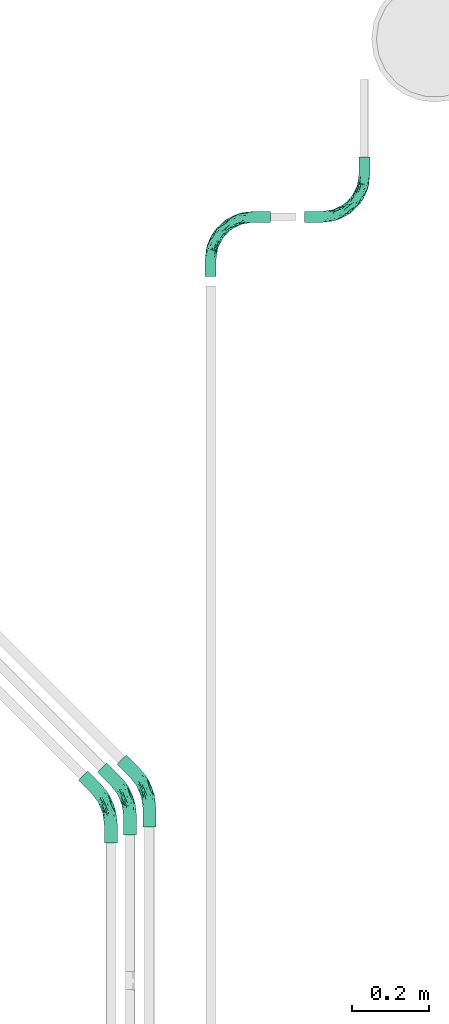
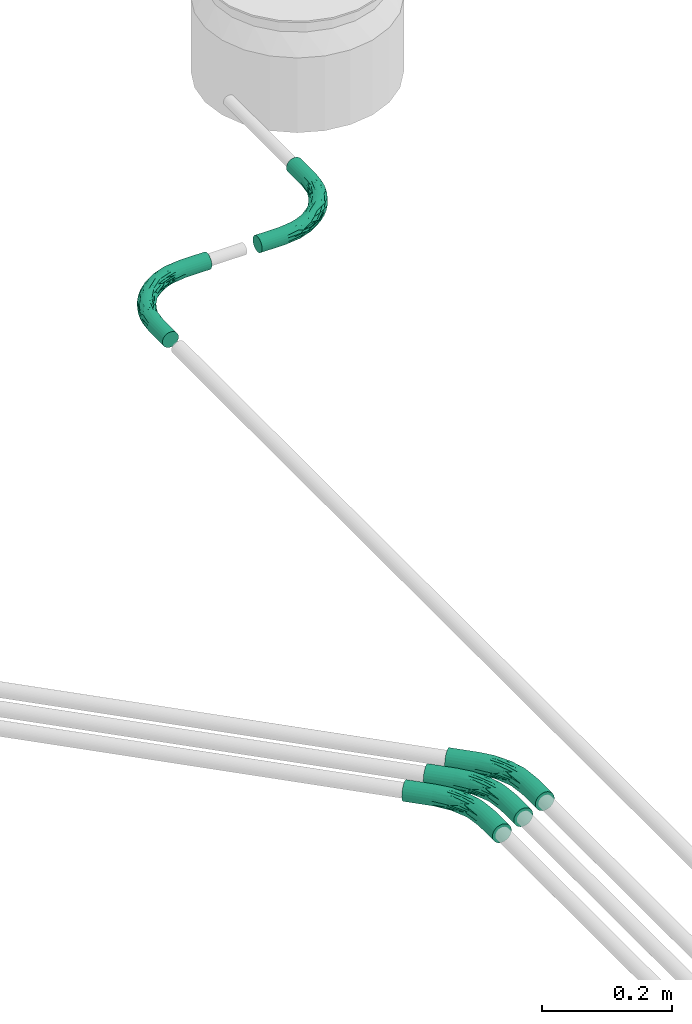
# One storey, part 14 of 51: 5 flow fittings.
"""IFC2X3 building model written with IfcOpenShell, lengths in millimetres."""

from ifc_helpers import new_model, entity, si_unit, converted_unit, derived_unit, direction, frame, origin_with_axes, place, context, subcontext, project, spatial, open_shell, surface_model, source, transform, mapped, type_object, element, save


model = new_model("IFC2X3")

# Units and contexts
model_context = context("Model", 3, precision=0.01, world=frame((0.0, 4.29681676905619e-09, 0.0)), true_north=direction((4.01073788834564e-13, 1.0)))
plan_context = context("Plan", 3, precision=0.01, world=frame((0.0, 4.29681676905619e-09, 0.0)), true_north=direction((4.01073788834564e-13, 1.0)))
body_context = subcontext(model_context, "Body", "Model", "MODEL_VIEW")
ifc_project = project(units=[converted_unit("PLANEANGLEUNIT", "DEGREE", entity("IfcPositiveLengthMeasure", 0.0174532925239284), si_unit("PLANEANGLEUNIT", "RADIAN"), dimensions=[0, 0, 0, 0, 0, 0, 0]), si_unit("AREAUNIT", "SQUARE_METRE"), si_unit("LENGTHUNIT", "METRE", prefix="MILLI"), si_unit("MASSUNIT", "GRAM", prefix="KILO"), si_unit("POWERUNIT", "WATT"), si_unit("PRESSUREUNIT", "PASCAL"), si_unit("FORCEUNIT", "NEWTON", prefix="KILO"), si_unit("ELECTRICVOLTAGEUNIT", "VOLT"), si_unit("ELECTRICCURRENTUNIT", "AMPERE"), si_unit("THERMODYNAMICTEMPERATUREUNIT", "DEGREE_CELSIUS"), si_unit("TIMEUNIT", "SECOND"), si_unit("VOLUMEUNIT", "CUBIC_METRE"), derived_unit("LINEARVELOCITYUNIT", [(si_unit("LENGTHUNIT", "METRE"), 1), (si_unit("TIMEUNIT", "SECOND"), -1)]), derived_unit("VOLUMETRICFLOWRATEUNIT", [(si_unit("VOLUMEUNIT", "CUBIC_METRE"), 1), (si_unit("TIMEUNIT", "SECOND"), -1)]), derived_unit("THERMALTRANSMITTANCEUNIT", [(si_unit("POWERUNIT", "WATT"), 1), (si_unit("THERMODYNAMICTEMPERATUREUNIT", "KELVIN"), -1), (si_unit("AREAUNIT", "SQUARE_METRE"), -1)]), derived_unit("SOUNDPRESSUREUNIT", [(si_unit("PRESSUREUNIT", "PASCAL"), 1)])], contexts=[model_context, plan_context])

# Site, building, storey
site_placement = place(None, frame((0.0, -4.29681676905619e-09, 0.0), z_axis=(0.0, 0.0, 1.0), x_axis=(1.0, 0.0, 0.0)))
site = spatial("IfcSite", under=ifc_project, at=site_placement, Name="ENGM", CompositionType="ELEMENT")
building_placement = place(site_placement, frame((0.0, 4.29681676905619e-09, 0.0), z_axis=(0.0, 0.0, 1.0), x_axis=(1.0, 0.0, 0.0)))
building = spatial("IfcBuilding", under=site, at=building_placement, Name="TI", CompositionType="ELEMENT")
storey_placement = place(building_placement, frame((0.0, 0.0, 210900.0), z_axis=(0.0, 0.0, 1.0), x_axis=(1.0, 0.0, 0.0)))
storey = spatial("IfcBuildingStorey", under=building, at=storey_placement, Name="Nivå F", CompositionType="ELEMENT", Elevation=210900.0)

# Flow fittings
cable_carrier_fitting_type = type_object("IfcCableCarrierFittingType", Name="Trekkerør, glatt bend", PredefinedType="BEND")
shared_shape_1 = source(origin_with_axes(), body_context, "Body", "SurfaceModel", [
    surface_model("IfcShellBasedSurfaceModel", [(-154.55625, 0.0, -14.27109), (-154.55625, -13.78482, -3.69363), (-154.55625, 3.69363, -13.78482), (-154.55625, 7.13555, -12.35913), (-154.55625, 12.35913, -7.13555), (-154.55625, -14.27109, 0.0), (-154.55625, 10.09119, -10.09119), (-154.55625, -13.78482, 3.69363), (-154.55625, -10.09119, -10.09119), (-154.55625, -12.35913, -7.13555), (-154.55625, -7.13555, -12.35913), (-154.55625, -3.69363, -13.78482), (-154.55625, 13.78482, -3.69363), (-154.55625, 14.27109, 0.0), (-154.55625, -12.35913, 7.13555), (-154.55625, 13.78482, 3.69363), (-154.55625, 12.35913, 7.13555), (-154.55625, 7.13555, 12.35913), (-154.55625, -3.69363, 13.78482), (-154.55625, 10.09119, 10.09119), (-154.55625, 3.69363, 13.78482), (-154.55625, 0.0, 14.27109), (-154.55625, -10.09119, 10.09119), (-154.55625, -7.13555, 12.35913), (-109.53828, -14.27109, 0.0), (-109.53828, -13.78482, 3.69363), (-109.53828, -12.35913, 7.13555), (-109.53828, -10.09119, 10.09119), (-109.53828, -7.13555, 12.35913), (-109.53828, -3.69363, 13.78482), (-109.53828, 0.0, 14.27109), (-109.53828, 3.69363, 13.78482), (-109.53828, 7.13555, 12.35913), (-109.53828, 10.09119, 10.09119), (-109.53828, 12.35913, 7.13555), (-109.53828, 13.78482, 3.69363), (-109.53828, 14.27109, 0.0), (-109.53828, 13.78482, -3.69363), (-109.53828, 12.35913, -7.13555), (-109.53828, 10.09119, -10.09119), (-109.53828, 7.13555, -12.35913), (-109.53828, 3.69363, -13.78482), (-109.53828, 0.0, -14.27109), (-109.53828, -3.69363, -13.78482), (-109.53828, -7.13555, -12.35913), (-109.53828, -10.09119, -10.09119), (-109.53828, -12.35913, -7.13555), (-109.53828, -13.78482, -3.69363), (-3.69363, 109.53828, 13.78482), (-7.1534, 89.99414, 13.24855), (-5.52615, 80.75509, 14.17919), (-60.76988, -1.31586, 8.35584), (-86.74719, -9.26979, 8.53701), (-78.43143, -9.27777, 5.21969), (-54.57322, 16.38341, 14.20456), (-37.47603, 23.87443, 14.06701), (-28.15284, 38.55475, 14.18707), (-61.24691, 4.75102, 13.02092), (-78.33811, -4.70928, 11.16152), (-49.9274, 6.84288, 10.90618), (-95.50078, -12.04777, 0.0), (-71.27908, -8.21143, 0.0), (-84.10609, -11.40642, 2.49425), (-84.40829, 4.61635, 14.17552), (-21.30634, 35.06714, 12.98487), (-25.5172, 25.5172, 10.83717), (-6.52074, 51.84045, 11.43645), (-14.9351, 49.72791, 14.07022), (-36.13298, 13.4524, 8.61377), (-48.07555, 3.07814, 4.93607), (-22.8399, 22.8399, 5.72655), (-61.42092, -4.26023, 2.69213), (-43.25505, 5.21821, 2.45459), (-76.37759, 10.60152, 13.29307), (-84.26876, 11.72213, 11.45557), (-16.10152, 32.64981, 8.49548), (-91.7629, 12.84689, 8.81067), (-78.89232, 2.16712, 14.11264), (-86.94002, -3.39666, 13.1113), (-53.54164, 32.46551, 0.0), (-80.0991, 18.9338, 0.0), (-65.27277, 24.4813, 4.15685), (-70.11513, 19.34285, 8.96525), (-58.85951, 26.77111, 6.9074), (-87.03749, 15.77002, 5.64275), (-7.13555, 109.53828, 12.35913), (-10.09119, 109.53828, 10.09119), (-12.24312, 82.27842, 11.46622), (-88.43996, 16.36335, 2.74565), (-0.11486, 73.25678, 13.06442), (7.13555, 109.53828, 12.35913), (3.69363, 109.53828, 13.78482), (-41.93843, 41.93843, 3.06688), (-41.06778, 41.06778, 6.49711), (-12.84689, 91.7629, 8.81067), (-12.35913, 109.53828, 7.13555), (5.39094, 64.47541, 3.19158), (-3.07814, 48.07555, 4.93607), (-3.51803, 45.96754, 2.3263), (-36.76496, 9.37439, 0.0), (-23.06967, 23.06967, 0.0), (0.0, 109.53828, 14.27109), (-0.81133, 84.32322, 14.11955), (-41.69927, 29.72188, 13.44421), (12.35913, 109.53828, 7.13555), (9.27777, 78.43143, 5.21969), (13.78482, 109.53828, 3.69363), (-57.22502, 11.42573, 14.17543), (9.26979, 86.74719, 8.53701), (1.31586, 60.76988, 8.35584), (5.72038, 82.4285, 11.18319), (11.40642, 84.10609, 2.49425), (-59.15779, 20.7896, 12.14962), (-18.9338, 80.0991, 0.0), (-32.46551, 53.54164, 0.0), (-24.4813, 65.27277, 4.15685), (-16.36335, 88.43996, 2.74565), (-14.27109, 109.53828, 0.0), (-8.62571, 53.03293, 12.89354), (-13.78482, 109.53828, 3.69363), (-15.77002, 87.03749, 5.64275), (-37.83174, 37.83174, 11.72896), (-22.74629, 58.47709, 11.20332), (-35.02355, 44.66648, 9.39592), (-51.28798, 28.82677, 10.17947), (-14.20714, 66.91103, 13.32458), (10.09119, 109.53828, 10.09119), (12.04777, 95.50078, 0.0), (-26.77111, 58.85951, 6.9074), (-19.34285, 70.11513, 8.96525), (-22.27171, 49.8428, 13.75381), (-14.02071, 58.08047, 14.23303), (-38.19919, 17.37508, 12.43121), (-25.3167, 50.04426, 12.74411), (-58.12909, 18.65185, 13.32115), (-15.5265, 29.44086, 2.9254), (-54.02202, 0.58148, 0.0), (-9.37439, 36.76496, 0.0), (-0.58148, 54.02202, 0.0), (8.21143, 71.27908, 0.0), (14.27109, 109.53828, 0.0), (-82.27842, 12.24312, -11.46622), (-16.38341, 54.57322, -14.20456), (-23.87443, 37.47603, -14.06701), (-38.55475, 28.15284, -14.18707), (-91.7629, 12.84689, -8.81067), (-24.4813, 65.27277, -4.15685), (-88.43996, 16.36335, -2.74565), (-65.27277, 24.4813, -4.15685), (-87.03749, 15.77002, -5.64275), (12.35913, 109.53828, -7.13555), (13.78482, 109.53828, -3.69363), (9.27777, 78.43143, -5.21969), (-84.10609, -11.40642, -2.49425), (-61.42092, -4.26023, -2.69213), (-41.93843, 41.93843, -3.06688), (-4.61635, 84.40829, -14.17552), (-3.69363, 109.53828, -13.78482), (0.0, 109.53828, -14.27109), (-48.07555, 3.07814, -4.93607), (-78.43143, -9.27777, -5.21969), (-60.76988, -1.31586, -8.35584), (-82.4285, -5.72038, -11.18319), (-51.84045, 6.52074, -11.43645), (-86.74719, -9.26979, -8.53701), (3.39666, 86.94002, -13.1113), (4.70928, 78.33811, -11.16152), (-4.75102, 61.24691, -13.02092), (-3.51803, 45.96754, -2.3263), (-15.5265, 29.44086, -2.9254), (-73.25678, 0.11486, -13.06442), (11.40642, 84.10609, -2.49425), (-84.32322, 0.81133, -14.11955), (-11.42573, 57.22502, -14.17543), (-3.07814, 48.07555, -4.93607), (1.31586, 60.76988, -8.35584), (-89.99414, 7.1534, -13.24855), (-10.60152, 76.37759, -13.29307), (-6.84288, 49.9274, -10.90618), (-2.16712, 78.89232, -14.11264), (-13.4524, 36.13298, -8.61377), (-25.5172, 25.5172, -10.83717), (-13.78482, 109.53828, -3.69363), (-16.36335, 88.43996, -2.74565), (3.69363, 109.53828, -13.78482), (-26.77111, 58.85951, -6.9074), (-15.77002, 87.03749, -5.64275), (-19.34285, 70.11513, -8.96525), (-12.35913, 109.53828, -7.13555), (-80.75509, 5.52615, -14.17919), (10.09119, 109.53828, -10.09119), (9.26979, 86.74719, -8.53701), (-10.09119, 109.53828, -10.09119), (-7.13555, 109.53828, -12.35913), (-11.72213, 84.26876, -11.45557), (-35.06714, 21.30634, -12.98487), (-32.64981, 16.10152, -8.49548), (-41.06778, 41.06777, -6.49711), (-29.72188, 41.69927, -13.44421), (7.13555, 109.53828, -12.35913), (-58.47709, 22.74629, -11.20332), (-66.91103, 14.20714, -13.32458), (-22.8399, 22.8399, -5.72655), (-49.72791, 14.9351, -14.07022), (-44.66648, 35.02355, -9.39592), (-28.82677, 51.28798, -10.17947), (-37.83174, 37.83174, -11.72896), (-20.7896, 59.15779, -12.14962), (-43.25505, 5.21821, -2.45459), (-53.03293, 8.62571, -12.89354), (-12.84689, 91.7629, -8.81067), (-58.85951, 26.77111, -6.9074), (-70.11513, 19.34285, -8.96525), (-49.8428, 22.27171, -13.75381), (-58.08047, 14.02071, -14.23303), (-17.37508, 38.19919, -12.43121), (-50.04426, 25.3167, -12.74411), (-18.65185, 58.12909, -13.32115), (5.39094, 64.47541, -3.19158), (-13.78482, 154.55625, -3.69363), (0.0, 154.55625, -14.27109), (-3.69363, 154.55625, -13.78482), (-12.35913, 154.55625, -7.13555), (-7.13555, 154.55625, -12.35913), (-10.09119, 154.55625, -10.09119), (14.27109, 154.55625, 0.0), (7.13555, 154.55625, -12.35913), (12.35913, 154.55625, -7.13555), (10.09119, 154.55625, -10.09119), (3.69363, 154.55625, -13.78482), (13.78482, 154.55625, -3.69363), (-14.27109, 154.55625, 0.0), (13.78482, 154.55625, 3.69363), (-13.78482, 154.55625, 3.69363), (-7.13555, 154.55625, 12.35913), (-12.35913, 154.55625, 7.13555), (-10.09119, 154.55625, 10.09119), (0.0, 154.55625, 14.27109), (-3.69363, 154.55625, 13.78482), (10.09119, 154.55625, 10.09119), (12.35913, 154.55625, 7.13555), (3.69363, 154.55625, 13.78482), (7.13555, 154.55625, 12.35913)], [open_shell([[[0, 1, 2]], [[3, 2, 4]], [[5, 4, 2]], [[6, 3, 4]], [[5, 7, 4]], [[8, 9, 10]], [[0, 11, 10]], [[9, 1, 10]], [[1, 0, 10]], [[2, 1, 5]], [[7, 12, 4]], [[13, 14, 15]], [[16, 15, 17]], [[17, 15, 18]], [[19, 16, 17]], [[20, 17, 21]], [[22, 18, 14]], [[13, 7, 14]], [[23, 18, 22]], [[14, 18, 15]], [[18, 21, 17]], [[12, 7, 13]], [[7, 24, 25]], [[26, 14, 25]], [[23, 27, 28]], [[26, 27, 22]], [[18, 28, 29]], [[24, 7, 5]], [[25, 14, 7]], [[26, 22, 14]], [[27, 23, 22]], [[18, 23, 28]], [[29, 21, 18]], [[29, 30, 21]], [[17, 31, 32]], [[33, 19, 32]], [[15, 34, 35]], [[33, 34, 16]], [[13, 35, 36]], [[31, 20, 30]], [[31, 17, 20]], [[30, 20, 21]], [[32, 19, 17]], [[33, 16, 19]], [[15, 16, 34]], [[35, 13, 15]], [[12, 36, 37]], [[38, 4, 37]], [[3, 39, 40]], [[38, 39, 6]], [[2, 40, 41]], [[36, 12, 13]], [[37, 4, 12]], [[38, 6, 4]], [[39, 3, 6]], [[2, 3, 40]], [[41, 0, 2]], [[41, 42, 0]], [[10, 43, 44]], [[45, 8, 44]], [[1, 46, 47]], [[45, 46, 9]], [[5, 47, 24]], [[43, 11, 42]], [[43, 10, 11]], [[42, 11, 0]], [[44, 8, 10]], [[45, 9, 8]], [[1, 9, 46]], [[47, 5, 1]], [[48, 49, 50]], [[51, 52, 53]], [[54, 55, 56]], [[57, 58, 59]], [[60, 61, 62]], [[63, 31, 30]], [[58, 28, 27]], [[25, 60, 62]], [[64, 65, 66]], [[27, 52, 58]], [[67, 55, 64]], [[68, 69, 70]], [[71, 72, 69]], [[31, 73, 32]], [[26, 25, 53]], [[33, 32, 74]], [[75, 65, 68]], [[34, 33, 76]], [[77, 29, 78]], [[53, 69, 51]], [[79, 80, 81]], [[82, 83, 84]], [[85, 86, 87]], [[36, 35, 88]], [[35, 34, 84]], [[89, 90, 91]], [[92, 81, 93]], [[94, 86, 95]], [[28, 78, 29]], [[96, 97, 98]], [[99, 100, 72]], [[29, 77, 30]], [[101, 50, 102]], [[59, 58, 51]], [[54, 56, 103]], [[101, 102, 91]], [[104, 105, 106]], [[85, 49, 48]], [[107, 57, 55]], [[105, 104, 108]], [[97, 105, 109]], [[89, 110, 90]], [[68, 65, 59]], [[111, 106, 105]], [[63, 54, 73]], [[112, 82, 74]], [[113, 114, 115]], [[92, 115, 114]], [[77, 63, 30]], [[113, 116, 117]], [[48, 50, 101]], [[27, 26, 52]], [[64, 66, 118]], [[95, 119, 120]], [[116, 115, 120]], [[114, 79, 92]], [[121, 122, 123]], [[123, 124, 121]], [[122, 125, 87]], [[87, 86, 94]], [[109, 110, 66]], [[74, 32, 73]], [[90, 110, 126]], [[104, 126, 108]], [[78, 58, 57]], [[121, 112, 103]], [[75, 97, 109]], [[106, 111, 127]], [[84, 88, 35]], [[83, 93, 81]], [[93, 128, 115]], [[94, 120, 129]], [[125, 130, 131]], [[102, 67, 89]], [[122, 87, 129]], [[49, 87, 125]], [[66, 110, 89]], [[108, 110, 109]], [[118, 67, 64]], [[66, 65, 75]], [[112, 74, 73]], [[76, 74, 82]], [[63, 77, 107]], [[73, 31, 63]], [[102, 50, 131]], [[89, 91, 102]], [[67, 56, 55]], [[65, 132, 59]], [[107, 55, 54]], [[132, 55, 57]], [[131, 50, 125]], [[125, 122, 133]], [[134, 54, 103]], [[112, 121, 124]], [[134, 112, 73]], [[133, 130, 125]], [[53, 62, 71]], [[70, 69, 72]], [[97, 70, 135]], [[97, 135, 98]], [[84, 34, 76]], [[88, 81, 80]], [[116, 120, 119]], [[120, 115, 128]], [[81, 92, 79]], [[115, 92, 93]], [[58, 78, 28]], [[77, 78, 57]], [[53, 52, 26]], [[58, 52, 51]], [[110, 108, 126]], [[105, 108, 109]], [[68, 59, 51]], [[65, 64, 132]], [[69, 68, 51]], [[75, 68, 70]], [[97, 75, 70]], [[66, 75, 109]], [[87, 49, 85]], [[50, 49, 125]], [[129, 128, 123]], [[122, 121, 133]], [[129, 123, 122]], [[83, 124, 123]], [[83, 123, 93]], [[112, 124, 82]], [[121, 103, 133]], [[130, 103, 56]], [[103, 130, 133]], [[130, 56, 131]], [[56, 67, 131]], [[102, 131, 67]], [[81, 88, 84]], [[36, 88, 80]], [[117, 116, 119]], [[115, 116, 113]], [[55, 132, 64]], [[57, 59, 132]], [[25, 24, 60]], [[71, 62, 61]], [[25, 62, 53]], [[136, 99, 72]], [[53, 71, 69]], [[72, 71, 136]], [[137, 135, 100]], [[100, 135, 72]], [[135, 137, 98]], [[72, 135, 70]], [[98, 137, 138]], [[139, 111, 96]], [[71, 61, 136]], [[96, 138, 139]], [[127, 111, 139]], [[127, 140, 106]], [[96, 111, 105]], [[97, 96, 105]], [[96, 98, 138]], [[74, 76, 33]], [[84, 76, 82]], [[120, 94, 95]], [[87, 94, 129]], [[84, 83, 81]], [[124, 83, 82]], [[123, 128, 93]], [[120, 128, 129]], [[66, 89, 118]], [[67, 118, 89]], [[63, 107, 54]], [[57, 107, 77]], [[54, 134, 73]], [[103, 112, 134]], [[39, 141, 40]], [[142, 143, 144]], [[141, 39, 145]], [[114, 113, 146]], [[147, 148, 149]], [[150, 151, 152]], [[80, 147, 36]], [[61, 153, 154]], [[80, 79, 148]], [[155, 148, 79]], [[156, 157, 158]], [[37, 149, 38]], [[159, 160, 161]], [[161, 162, 163]], [[160, 46, 164]], [[165, 166, 167]], [[153, 47, 160]], [[168, 137, 169]], [[162, 44, 170]], [[151, 127, 171]], [[172, 43, 42]], [[173, 167, 143]], [[46, 160, 47]], [[44, 43, 170]], [[152, 174, 175]], [[45, 164, 46]], [[41, 40, 176]], [[156, 142, 177]], [[178, 166, 175]], [[179, 156, 158]], [[79, 114, 155]], [[180, 181, 178]], [[117, 182, 183]], [[184, 179, 158]], [[185, 186, 187]], [[188, 186, 182]], [[41, 176, 189]], [[190, 150, 191]], [[192, 193, 194]], [[195, 181, 163]], [[184, 165, 179]], [[44, 162, 45]], [[196, 181, 180]], [[146, 197, 155]], [[142, 144, 198]], [[165, 184, 199]], [[166, 190, 191]], [[200, 201, 141]], [[157, 177, 193]], [[174, 202, 180]], [[190, 166, 199]], [[143, 195, 203]], [[166, 178, 167]], [[204, 205, 206]], [[171, 127, 139]], [[41, 189, 42]], [[206, 207, 198]], [[152, 175, 191]], [[194, 193, 177]], [[208, 202, 169]], [[206, 200, 204]], [[172, 42, 189]], [[195, 163, 209]], [[210, 188, 192]], [[207, 187, 194]], [[145, 39, 38]], [[196, 159, 161]], [[47, 153, 60]], [[186, 183, 182]], [[185, 197, 146]], [[197, 211, 148]], [[145, 149, 212]], [[201, 213, 214]], [[172, 203, 170]], [[200, 141, 212]], [[176, 141, 201]], [[163, 162, 170]], [[164, 162, 161]], [[209, 203, 195]], [[163, 181, 196]], [[207, 194, 177]], [[210, 194, 187]], [[156, 179, 173]], [[177, 157, 156]], [[172, 189, 214]], [[170, 43, 172]], [[203, 144, 143]], [[181, 215, 178]], [[173, 143, 142]], [[215, 143, 167]], [[214, 189, 201]], [[201, 200, 216]], [[217, 142, 198]], [[207, 206, 205]], [[217, 207, 177]], [[216, 213, 201]], [[152, 171, 218]], [[202, 174, 169]], [[100, 208, 169]], [[208, 136, 154]], [[186, 188, 210]], [[183, 146, 113]], [[147, 149, 37]], [[149, 148, 211]], [[146, 155, 114]], [[148, 155, 197]], [[166, 165, 199]], [[179, 165, 167]], [[152, 191, 150]], [[166, 191, 175]], [[162, 164, 45]], [[160, 164, 161]], [[180, 178, 175]], [[181, 195, 215]], [[174, 180, 175]], [[196, 180, 202]], [[159, 196, 202]], [[163, 196, 161]], [[141, 176, 40]], [[189, 176, 201]], [[212, 211, 204]], [[200, 206, 216]], [[212, 204, 200]], [[185, 205, 204]], [[185, 204, 197]], [[207, 205, 187]], [[206, 198, 216]], [[213, 198, 144]], [[198, 213, 216]], [[213, 144, 214]], [[144, 203, 214]], [[172, 214, 203]], [[146, 183, 186]], [[117, 183, 113]], [[36, 147, 37]], [[148, 147, 80]], [[143, 215, 195]], [[167, 178, 215]], [[60, 153, 61]], [[60, 24, 47]], [[154, 160, 159]], [[160, 154, 153]], [[208, 154, 159]], [[202, 208, 159]], [[151, 140, 127]], [[100, 169, 137]], [[99, 208, 100]], [[168, 169, 174]], [[218, 174, 152]], [[218, 138, 168]], [[136, 208, 99]], [[138, 137, 168]], [[136, 61, 154]], [[139, 138, 218]], [[151, 171, 152]], [[139, 218, 171]], [[174, 218, 168]], [[194, 210, 192]], [[186, 210, 187]], [[149, 145, 38]], [[141, 145, 212]], [[186, 185, 146]], [[205, 185, 187]], [[204, 211, 197]], [[149, 211, 212]], [[163, 170, 209]], [[203, 209, 170]], [[156, 173, 142]], [[167, 173, 179]], [[142, 217, 177]], [[198, 207, 217]], [[219, 220, 221]], [[222, 221, 223]], [[222, 219, 221]], [[222, 223, 224]], [[220, 219, 225]], [[226, 227, 228]], [[226, 229, 220]], [[226, 230, 227]], [[226, 220, 230]], [[225, 230, 220]], [[219, 231, 225]], [[232, 225, 233]], [[234, 233, 235]], [[232, 233, 234]], [[234, 235, 236]], [[237, 234, 238]], [[232, 239, 240]], [[239, 232, 241]], [[239, 241, 242]], [[232, 234, 241]], [[234, 237, 241]], [[233, 225, 231]], [[106, 225, 232]], [[240, 104, 232]], [[90, 239, 242]], [[240, 239, 126]], [[91, 242, 241]], [[225, 106, 140]], [[232, 104, 106]], [[240, 126, 104]], [[239, 90, 126]], [[91, 90, 242]], [[241, 101, 91]], [[241, 237, 101]], [[85, 238, 234]], [[236, 86, 234]], [[119, 235, 233]], [[236, 235, 95]], [[117, 233, 231]], [[238, 48, 237]], [[238, 85, 48]], [[237, 48, 101]], [[234, 86, 85]], [[236, 95, 86]], [[119, 95, 235]], [[233, 117, 119]], [[182, 231, 219]], [[222, 188, 219]], [[193, 224, 223]], [[222, 224, 192]], [[157, 223, 221]], [[231, 182, 117]], [[219, 188, 182]], [[222, 192, 188]], [[224, 193, 192]], [[157, 193, 223]], [[221, 158, 157]], [[221, 220, 158]], [[199, 229, 226]], [[228, 190, 226]], [[151, 227, 230]], [[228, 227, 150]], [[140, 230, 225]], [[229, 184, 220]], [[229, 199, 184]], [[220, 184, 158]], [[226, 190, 199]], [[228, 150, 190]], [[151, 150, 227]], [[230, 140, 151]]])]),
])
for number, where, z_axis, x_axis, name in (
    (1, (611780.64511, 696545.40782, -110.0), (0.0, 0.0, 1.0), (1.0, 0.0, 0.0), "Trekkerør, glatt bend"),
    (2, (611382.66348, 696545.47613, -110.0), (0.0, 0.0, 1.0), (-1.0, 0.0, 0.0), "Trekkerør, glatt bend"),
):
    element("IfcFlowFitting", number, at=place(storey_placement, frame(where, z_axis=z_axis, x_axis=x_axis)), inside=storey, type_object=cable_carrier_fitting_type, Name=name, context=body_context, shape_type="MappedRepresentation", body=[
        mapped(shared_shape_1, transform((0.0, 0.0, 0.0), scale=1.0)),
    ])
shared_shape_2 = source(origin_with_axes(), body_context, "Body", "SurfaceModel", [
    surface_model("IfcShellBasedSurfaceModel", [(-101.90646, 8.46055, -14.6541), (-101.90646, 4.3795, -16.34452), (-101.90646, 0.0, -16.92109), (-101.90646, 14.6541, -8.46055), (-101.90646, -8.46055, -14.6541), (-101.90646, 11.96502, -11.96502), (-101.90646, -16.92109, 0.0), (-101.90646, -16.34452, 4.3795), (-101.90646, -11.96502, -11.96502), (-101.90646, -14.6541, -8.46055), (-101.90646, -4.3795, -16.34452), (-101.90646, -16.34452, -4.3795), (-101.90646, 16.92109, 0.0), (-101.90646, 16.34452, -4.3795), (-101.90646, 16.34452, 4.3795), (-101.90646, 14.6541, 8.46055), (-101.90646, 8.46055, 14.6541), (-101.90646, 11.96502, 11.96502), (-101.90646, 0.0, 16.92109), (-101.90646, 4.3795, 16.34452), (-101.90646, -11.96502, 11.96502), (-101.90646, -8.46055, 14.6541), (-101.90646, -14.6541, 8.46055), (-101.90646, -4.3795, 16.34452), (-54.58849, -16.92109, 0.0), (-54.58849, -16.34452, 4.3795), (-54.58849, -14.6541, 8.46055), (-54.58849, -11.96502, 11.96502), (-54.58849, -8.46055, 14.6541), (-54.58849, -4.3795, 16.34452), (-54.58849, 0.0, 16.92109), (-54.58849, 4.3795, 16.34452), (-54.58849, 8.46055, 14.6541), (-54.58849, 11.96502, 11.96502), (-54.58849, 14.6541, 8.46055), (-54.58849, 16.34452, 4.3795), (-54.58849, 16.92109, 0.0), (-54.58849, 16.34452, -4.3795), (-54.58849, 14.6541, -8.46055), (-54.58849, 11.96502, -11.96502), (-54.58849, 8.46055, -14.6541), (-54.58849, 4.3795, -16.34452), (-54.58849, 0.0, -16.92109), (-54.58849, -4.3795, -16.34452), (-54.58849, -8.46055, -14.6541), (-54.58849, -11.96502, -11.96502), (-54.58849, -14.6541, -8.46055), (-54.58849, -16.34452, -4.3795), (10.9245, -1.31078, 3.47544), (-13.36235, -10.76027, 3.27049), (-16.09967, -11.85394, 0.0), (41.69667, 35.50312, 16.34452), (38.59989, 38.59989, 16.92109), (22.26214, 21.90343, 16.76352), (-19.66365, -2.12805, 15.57779), (-29.58477, -8.16493, 13.36262), (-20.60685, -9.47816, 10.19127), (-34.07223, 17.39409, 6.62821), (-10.25807, 24.76518, 5.65746), (-29.40446, 19.36118, 3.4046), (-3.22837, 7.79397, 16.74683), (-31.22977, -0.25365, 16.76352), (35.50312, 41.69667, 16.34452), (32.61738, 44.5824, 14.6541), (17.47707, 29.1678, 15.66764), (-16.62388, 19.5721, 10.43045), (-25.92736, 13.63005, 13.4985), (5.09993, 25.84703, 13.50914), (-21.17216, 6.44783, 16.79403), (19.76619, 3.00218, 0.0), (-6.56017, 15.83764, 15.71089), (-32.9829, 8.26659, 15.66764), (19.50033, 6.79523, 10.18462), (48.96191, 28.23788, 8.46055), (47.06044, 30.13935, 11.96502), (-0.14544, 0.35113, 13.28643), (-24.85868, 20.8351, 0.0), (44.5824, 32.61738, 14.6541), (26.69306, 15.14611, 13.36262), (8.9424, 34.00903, 7.47137), (8.93562, 35.31889, 4.60583), (25.73601, 8.11548, 6.36012), (-6.07752, -7.50254, 6.29064), (28.23788, 48.96191, 8.46055), (10.0687, 32.56851, 10.38353), (30.13935, 47.06044, 11.96502), (-30.89964, -14.04008, 5.64535), (16.01237, 12.75836, 15.5789), (12.05401, 20.50658, 16.79305), (50.15722, 27.04257, 4.3795), (50.56491, 26.63487, 0.0), (32.88314, 11.79305, 2.69799), (2.8451, 32.31038, 0.0), (26.63487, 50.56491, 0.0), (27.04257, 50.15722, 4.3795), (-32.9829, 8.26659, -15.66764), (16.55602, 18.09298, -16.75967), (38.59989, 38.59989, -16.92109), (41.69667, 35.50312, -16.34452), (30.13935, 47.06044, -11.96502), (32.61738, 44.5824, -14.6541), (8.69552, 27.97131, -13.4985), (-6.56017, 15.83764, -15.71089), (-21.88281, 14.67041, -13.50914), (-31.29267, 18.65579, -4.60583), (-30.37125, 17.72478, -7.47137), (-10.25807, 24.76517, -5.65746), (-1.59965, 3.86188, -15.54749), (17.63726, 9.2923, -13.33594), (-19.1381, -5.92521, -13.33619), (-2.08471, 25.59442, -10.43045), (-30.14906, 15.90977, -10.38353), (-24.73941, 5.56629, -16.79215), (10.41167, 19.53028, -16.79403), (-18.36618, -11.17146, -6.33871), (-28.92763, -11.20296, -10.21852), (-19.67101, 2.27248, -16.75686), (-22.81878, -13.17372, -3.2081), (17.47707, 29.1678, -15.66764), (-30.36783, -4.42984, -15.59506), (24.60567, 18.34093, -15.59506), (35.50312, 41.69667, -16.34452), (7.10167, 34.48251, -3.4046), (27.04257, 50.15722, -4.3795), (44.5824, 32.61738, -14.6541), (47.06044, 30.13935, -11.96502), (28.23788, 48.96191, -8.46055), (11.79322, 36.39219, -6.62821), (1.03493, -2.49855, -10.11808), (48.96191, 28.23788, -8.46055), (28.37661, 12.53324, -10.21852), (20.88626, 5.08744, -6.33871), (25.45054, 6.82009, -3.2081), (2.19574, -5.30098, -3.30061), (50.15722, 27.04257, -4.3795), (60.50143, 83.61607, -4.3795), (72.05875, 72.05875, -16.92109), (68.96197, 75.15552, -16.34452), (66.07624, 78.04126, -14.6541), (63.5982, 80.51929, -11.96502), (61.69674, 82.42076, -8.46055), (75.15552, 68.96197, -16.34452), (80.51929, 63.5982, -11.96502), (78.04126, 66.07624, -14.6541), (83.61607, 60.50143, -4.3795), (82.42076, 61.69674, -8.46055), (83.61607, 60.50143, 4.3795), (84.02377, 60.09373, 0.0), (75.15552, 68.96197, 16.34452), (60.50143, 83.61607, 4.3795), (61.69674, 82.42076, 8.46055), (66.07624, 78.04126, 14.6541), (72.05875, 72.05875, 16.92109), (63.5982, 80.51929, 11.96502), (68.96197, 75.15552, 16.34452), (80.51929, 63.5982, 11.96502), (82.42076, 61.69674, 8.46055), (78.04126, 66.07624, 14.6541), (60.09373, 84.02377, 0.0)], [open_shell([[[0, 1, 2]], [[3, 0, 2]], [[4, 3, 2]], [[5, 0, 3]], [[3, 6, 7]], [[8, 9, 4]], [[2, 10, 4]], [[9, 11, 4]], [[11, 3, 4]], [[3, 11, 6]], [[12, 13, 3]], [[12, 7, 14]], [[14, 7, 15]], [[16, 17, 18]], [[15, 18, 17]], [[18, 19, 16]], [[20, 21, 22]], [[15, 7, 22]], [[23, 18, 21]], [[15, 22, 21]], [[15, 21, 18]], [[3, 7, 12]], [[7, 24, 25]], [[26, 22, 25]], [[21, 27, 28]], [[26, 27, 20]], [[23, 28, 29]], [[24, 7, 6]], [[25, 22, 7]], [[26, 20, 22]], [[27, 21, 20]], [[23, 21, 28]], [[29, 18, 23]], [[29, 30, 18]], [[16, 31, 32]], [[33, 17, 32]], [[14, 34, 35]], [[33, 34, 15]], [[12, 35, 36]], [[31, 19, 30]], [[31, 16, 19]], [[30, 19, 18]], [[32, 17, 16]], [[33, 15, 17]], [[14, 15, 34]], [[35, 12, 14]], [[13, 36, 37]], [[38, 3, 37]], [[0, 39, 40]], [[38, 39, 5]], [[1, 40, 41]], [[36, 13, 12]], [[37, 3, 13]], [[38, 5, 3]], [[39, 0, 5]], [[1, 0, 40]], [[41, 2, 1]], [[41, 42, 2]], [[4, 43, 44]], [[45, 8, 44]], [[11, 46, 47]], [[45, 46, 9]], [[6, 47, 24]], [[43, 10, 42]], [[43, 4, 10]], [[42, 10, 2]], [[44, 8, 4]], [[45, 9, 8]], [[11, 9, 46]], [[47, 6, 11]], [[48, 49, 50]], [[49, 24, 50]], [[51, 52, 53]], [[29, 28, 54]], [[27, 55, 28]], [[56, 27, 26]], [[57, 58, 59]], [[60, 61, 54]], [[61, 30, 29]], [[62, 63, 64]], [[65, 66, 67]], [[31, 30, 68]], [[48, 50, 69]], [[67, 66, 70]], [[33, 32, 66]], [[65, 58, 57]], [[71, 32, 31]], [[72, 73, 74]], [[56, 72, 75]], [[59, 76, 36]], [[74, 77, 78]], [[36, 35, 59]], [[58, 79, 80]], [[81, 72, 82]], [[70, 71, 68]], [[83, 84, 85]], [[25, 49, 86]], [[34, 33, 65]], [[87, 77, 51]], [[54, 87, 60]], [[72, 56, 82]], [[88, 70, 68]], [[72, 81, 73]], [[73, 81, 89]], [[88, 62, 64]], [[78, 72, 74]], [[60, 88, 68]], [[90, 89, 91]], [[48, 81, 82]], [[55, 56, 75]], [[84, 67, 85]], [[59, 92, 76]], [[26, 86, 56]], [[92, 80, 93]], [[75, 78, 87]], [[80, 79, 94]], [[87, 51, 53]], [[70, 64, 67]], [[61, 68, 30]], [[65, 84, 79]], [[60, 53, 88]], [[67, 63, 85]], [[88, 52, 62]], [[65, 33, 66]], [[75, 87, 54]], [[91, 81, 48]], [[66, 32, 71]], [[55, 54, 28]], [[79, 84, 83]], [[67, 84, 65]], [[56, 55, 27]], [[54, 55, 75]], [[87, 78, 77]], [[72, 78, 75]], [[94, 79, 83]], [[65, 79, 58]], [[93, 80, 94]], [[92, 58, 80]], [[54, 61, 29]], [[68, 61, 60]], [[88, 53, 52]], [[87, 53, 60]], [[48, 82, 49]], [[91, 48, 69]], [[90, 91, 69]], [[81, 91, 89]], [[86, 49, 82]], [[24, 49, 25]], [[56, 86, 82]], [[26, 25, 86]], [[68, 71, 31]], [[66, 71, 70]], [[67, 64, 63]], [[88, 64, 70]], [[57, 35, 34]], [[92, 59, 58]], [[35, 57, 59]], [[65, 57, 34]], [[40, 95, 41]], [[96, 97, 98]], [[99, 100, 101]], [[102, 95, 103]], [[76, 104, 36]], [[104, 105, 37]], [[104, 106, 105]], [[107, 108, 109]], [[105, 110, 111]], [[40, 39, 103]], [[110, 99, 101]], [[112, 102, 113]], [[114, 46, 115]], [[116, 113, 96]], [[24, 47, 117]], [[110, 101, 103]], [[114, 47, 46]], [[101, 100, 118]], [[119, 44, 43]], [[112, 41, 95]], [[46, 45, 115]], [[45, 44, 109]], [[107, 119, 116]], [[113, 116, 112]], [[96, 98, 120]], [[113, 121, 97]], [[122, 76, 92]], [[112, 116, 42]], [[93, 123, 122]], [[124, 125, 108]], [[43, 42, 116]], [[110, 126, 99]], [[102, 103, 101]], [[106, 122, 127]], [[100, 121, 118]], [[128, 115, 109]], [[109, 44, 119]], [[127, 110, 106]], [[128, 109, 108]], [[113, 102, 118]], [[120, 98, 124]], [[113, 97, 96]], [[129, 130, 125]], [[107, 120, 108]], [[42, 41, 112]], [[107, 116, 96]], [[128, 130, 131]], [[128, 131, 114]], [[69, 132, 90]], [[69, 133, 132]], [[50, 117, 133]], [[133, 117, 114]], [[133, 69, 50]], [[129, 134, 131]], [[130, 108, 125]], [[122, 92, 93]], [[111, 103, 39]], [[38, 111, 39]], [[105, 111, 38]], [[103, 111, 110]], [[109, 115, 45]], [[114, 115, 128]], [[131, 130, 129]], [[108, 130, 128]], [[37, 105, 38]], [[110, 105, 106]], [[36, 104, 37]], [[76, 106, 104]], [[116, 119, 43]], [[109, 119, 107]], [[108, 120, 124]], [[96, 120, 107]], [[114, 131, 133]], [[132, 133, 131]], [[103, 95, 40]], [[112, 95, 102]], [[113, 118, 121]], [[101, 118, 102]], [[24, 117, 50]], [[47, 114, 117]], [[131, 134, 132]], [[90, 132, 134]], [[127, 123, 126]], [[76, 122, 106]], [[123, 127, 122]], [[110, 127, 126]], [[135, 136, 137]], [[135, 137, 138]], [[139, 140, 135]], [[139, 135, 138]], [[136, 135, 141]], [[141, 142, 143]], [[142, 141, 144]], [[142, 144, 145]], [[141, 135, 144]], [[144, 146, 147]], [[144, 135, 148]], [[135, 149, 150]], [[150, 151, 135]], [[151, 152, 135]], [[151, 150, 153]], [[151, 154, 152]], [[146, 155, 156]], [[155, 146, 157]], [[146, 148, 157]], [[146, 144, 148]], [[152, 148, 135]], [[149, 135, 158]], [[89, 147, 146]], [[156, 73, 146]], [[77, 155, 157]], [[156, 155, 74]], [[51, 157, 148]], [[147, 89, 90]], [[146, 73, 89]], [[156, 74, 73]], [[155, 77, 74]], [[51, 77, 157]], [[148, 52, 51]], [[148, 152, 52]], [[63, 154, 151]], [[153, 85, 151]], [[94, 150, 149]], [[153, 150, 83]], [[93, 149, 158]], [[154, 62, 152]], [[154, 63, 62]], [[152, 62, 52]], [[151, 85, 63]], [[153, 83, 85]], [[94, 83, 150]], [[149, 93, 94]], [[93, 158, 135]], [[140, 123, 135]], [[138, 137, 121]], [[139, 138, 99]], [[126, 140, 139]], [[140, 126, 123]], [[123, 93, 135]], [[99, 138, 100]], [[100, 138, 121]], [[137, 97, 121]], [[99, 126, 139]], [[137, 136, 97]], [[124, 141, 143]], [[142, 125, 143]], [[134, 145, 144]], [[142, 145, 129]], [[90, 144, 147]], [[141, 98, 136]], [[141, 124, 98]], [[136, 98, 97]], [[143, 125, 124]], [[142, 129, 125]], [[134, 129, 145]], [[144, 90, 134]]])]),
])
for number, where, z_axis, x_axis, name in (
    (3, (611124.59, 695028.22328, -56.7999999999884), (0.0, 0.0, 1.0), (0.0, 1.0, 0.0), "Trekkerør, glatt bend"),
    (4, (611174.59, 695048.93395, -56.7999999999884), (0.0, 0.0, 1.0), (0.0, 1.0, 0.0), "Trekkerør, glatt bend"),
    (5, (611224.59, 695069.64463, -56.7999999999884), (0.0, 0.0, 1.0), (0.0, 1.0, 0.0), "Trekkerør, glatt bend"),
):
    element("IfcFlowFitting", number, at=place(storey_placement, frame(where, z_axis=z_axis, x_axis=x_axis)), inside=storey, type_object=cable_carrier_fitting_type, Name=name, context=body_context, shape_type="MappedRepresentation", body=[
        mapped(shared_shape_2, transform((0.0, 0.0, 0.0), scale=1.0)),
    ])

save(model, "model.ifc")
